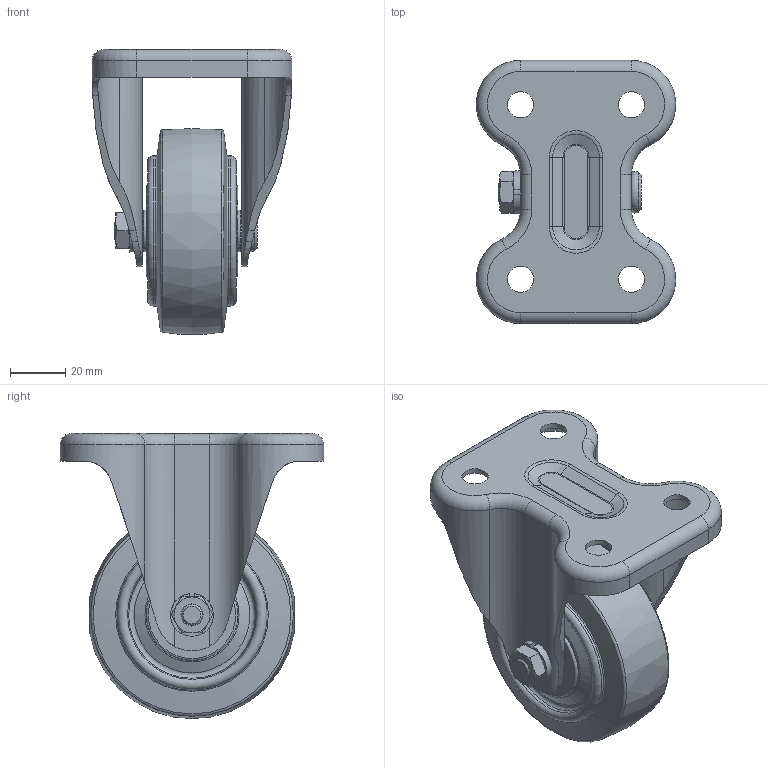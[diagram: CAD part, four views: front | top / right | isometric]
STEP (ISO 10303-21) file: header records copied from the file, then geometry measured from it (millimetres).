
FILE_DESCRIPTION((''),'2;1');
FILE_NAME('\\Cad-srv01-2\図面\900 図面交換受渡し場所\■■カタログ作成中（消さないでください)■■\1203　APPIT　3D\03購買先データ\シシク\解凍データ\WK-75\WK-75.stp','2013-07-19T17:32:12',('Administrator'),(''),'Autodesk Inventor 11','Autodesk Inventor 11','');
FILE_SCHEMA(('AUTOMOTIVE_DESIGN { 1 0 10303 214 1 1 1 1 }'));
Length unit declared in the file: millimetre
Products named in the file (4): WK-75; 1; 2; 3
Assembly tree (3 placements, depth 2):
  WK-75
    1
    2
    3
Bounding box: 71.99 x 95 x 102.89 mm (x, y, z)
Volume: 101524.5 mm3; surface area: 69732.1 mm2
Topology: 3 solids, 3 shells, 266 faces, 651 edges, 396 vertices
Faces by surface type: plane 87, cylinder 84, torus 56, cone 38, bspline 1
Full cylindrical faces by diameter (mm): 8 x1, 8.1 x1, 9.5 x4, 10 x1, 15 x4, 29.95 x4, 31.95 x2, 52.2 x2, 54.2 x5, 56.2 x2
Entity records: 8173 total; most frequent: CARTESIAN_POINT 2037, DIRECTION 1340, ORIENTED_EDGE 1124, EDGE_CURVE 567, AXIS2_PLACEMENT_3D 563, VERTEX_POINT 385, EDGE_LOOP 377, CIRCLE 267
